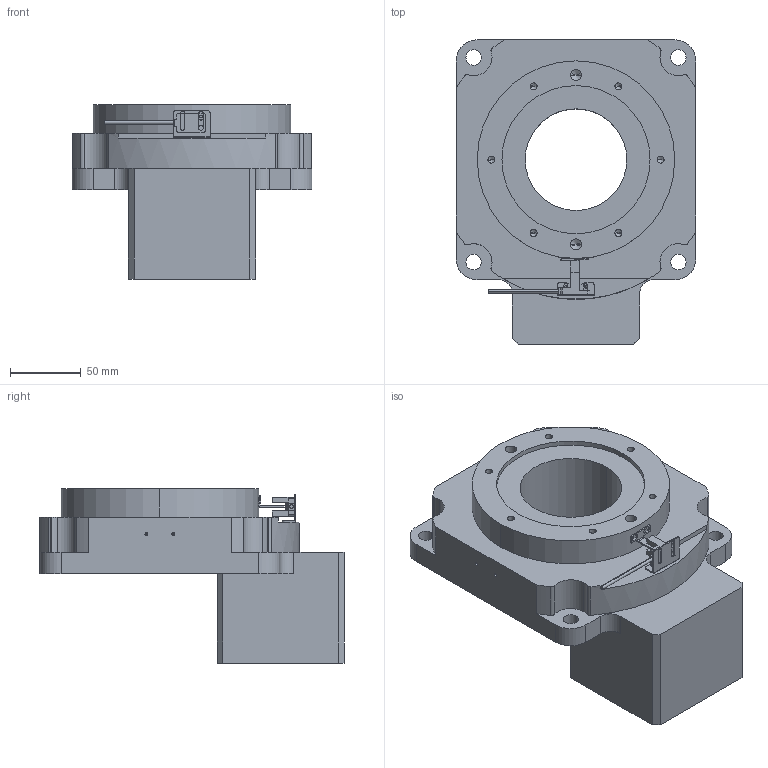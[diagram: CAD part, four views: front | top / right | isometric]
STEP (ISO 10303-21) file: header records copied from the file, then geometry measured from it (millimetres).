
FILE_DESCRIPTION (( 'STEP AP203' ), '1' );
FILE_NAME ('RTN170-10K-19-70-90-M5.STEP', '2024-05-21T10:12:02', ( '' ), ( '' ), 'SwSTEP 2.0', 'SolidWorks 2023', '' );
FILE_SCHEMA (( 'CONFIG_CONTROL_DESIGN' ));
Length unit declared in the file: millimetre
Products named in the file (1): RTN170-10K-19-70-90-M5
Bounding box: 170 x 215.56 x 123.5 mm (x, y, z)
Volume: 1680236.9 mm3; surface area: 141763.2 mm2
Topology: 4 solids, 6 shells, 286 faces, 757 edges, 468 vertices
Faces by surface type: cylinder 131, plane 111, cone 44
Entity records: 8684 total; most frequent: DIRECTION 1551, CARTESIAN_POINT 1468, ORIENTED_EDGE 1426, EDGE_CURVE 713, AXIS2_PLACEMENT_3D 551, VERTEX_POINT 468, VECTOR 449, LINE 449
